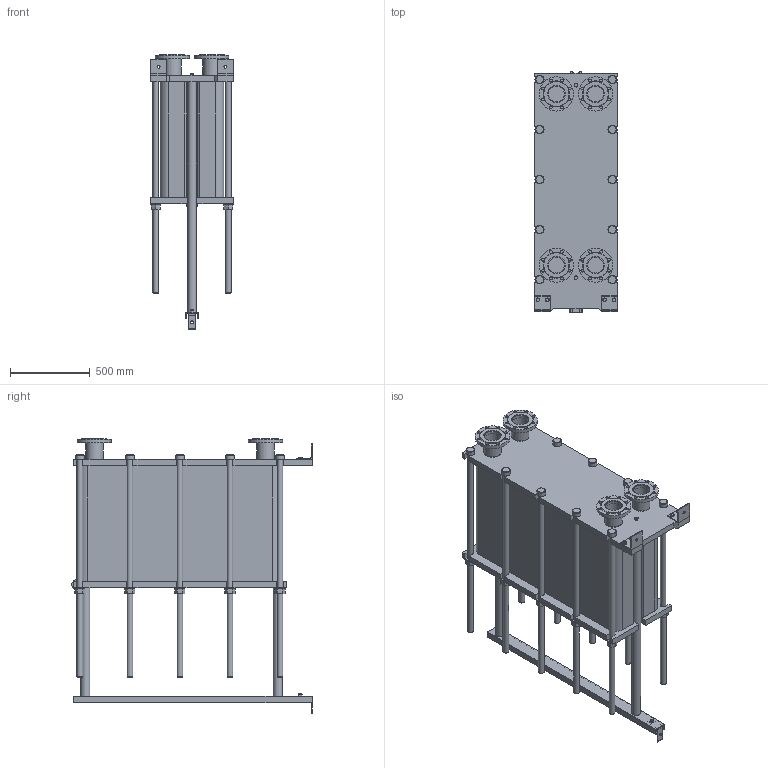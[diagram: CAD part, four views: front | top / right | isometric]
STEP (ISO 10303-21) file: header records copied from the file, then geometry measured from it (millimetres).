
FILE_DESCRIPTION(/* description */ (''),/* implementation_level */ '2;1');
FILE_NAME(/* name */ 'C:\Users\zhuro\Desktop\ENCO\TO\ЭН-04\ЭН-0,5-04-211-1.stp',/* time_stamp */ '2022-06-06T11:04:33+03:00',/* author */ ('zhuro'),/* organization */ (''),/* preprocessor_version */ 'ST-DEVELOPER v18.1',/* originating_system */ 'Autodesk Inventor 2022',/* authorisation */ '');
FILE_SCHEMA (('AUTOMOTIVE_DESIGN { 1 0 10303 214 3 1 1 }'));
Length unit declared in the file: millimetre
Products named in the file (1): ЭН-0,5-04-211-1
Bounding box: 520 x 1510 x 1725.5 mm (x, y, z)
Volume: 440978585.5 mm3; surface area: 10796162.4 mm2
Topology: 45 solids, 45 shells, 668 faces, 1611 edges, 1048 vertices
Faces by surface type: plane 457, cylinder 166, cone 39, torus 6
Full cylindrical faces by diameter (mm): 8 x4, 10 x2, 16 x8, 18 x35, 36 x25, 40 x2, 42 x1, 45 x4, 54 x10, 57 x2, 60 x10, 68 x2, 100 x4, 110 x8, 215 x4
Entity records: 23607 total; most frequent: CARTESIAN_POINT 7348, DIRECTION 3371, ORIENTED_EDGE 3142, EDGE_CURVE 1571, AXIS2_PLACEMENT_3D 1199, VERTEX_POINT 1044, LINE 973, VECTOR 973
